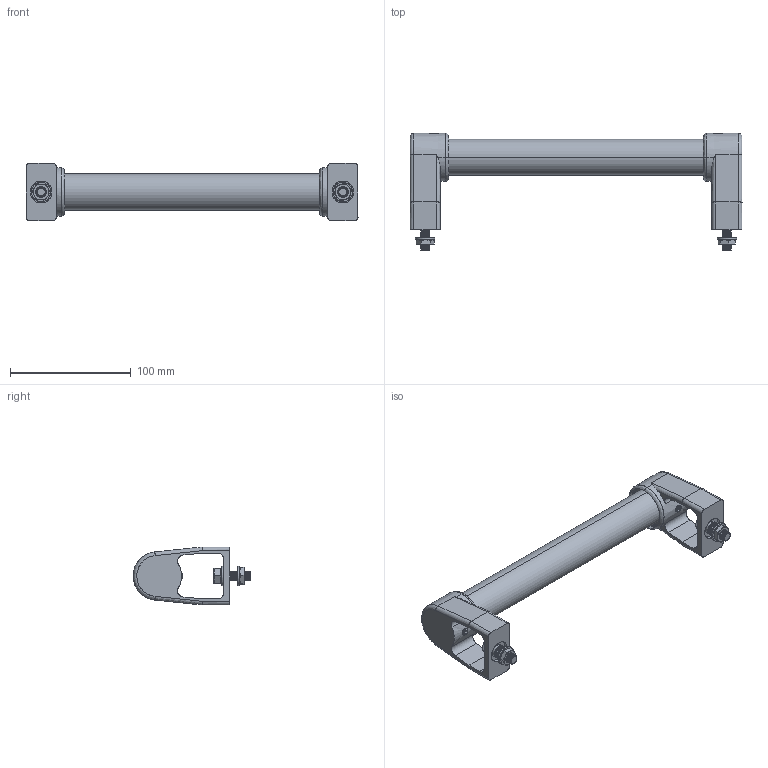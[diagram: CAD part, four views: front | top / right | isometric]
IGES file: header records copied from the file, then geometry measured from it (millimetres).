
Start section: SolidWorks IGES file using analytic representation for surfaces
Global section: file name: C:\Users\IanO\Desktop\Temp File\CADMASTER UPLOADING\78800_v2\78800_v2_20171221_IGES\78800.W0260.igs; native system: SolidWorks 2017; preprocessor: SolidWorks 2017; author: IanO; date: 180428.100827; units: millimetre
Bounding box: 275 x 97.4 x 48 mm (x, y, z)
Surface area: 87320.5 mm2 (no closed solid volume)
Topology: 0 solids, 0 shells, 486 faces, 5524 edges, 5520 vertices
Faces by surface type: revolution 372, bspline 114
